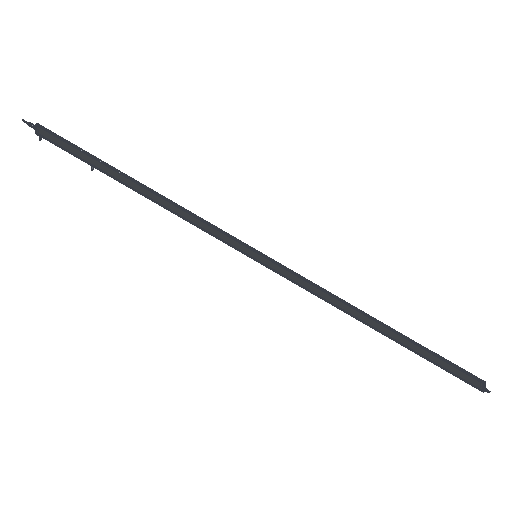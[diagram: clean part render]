
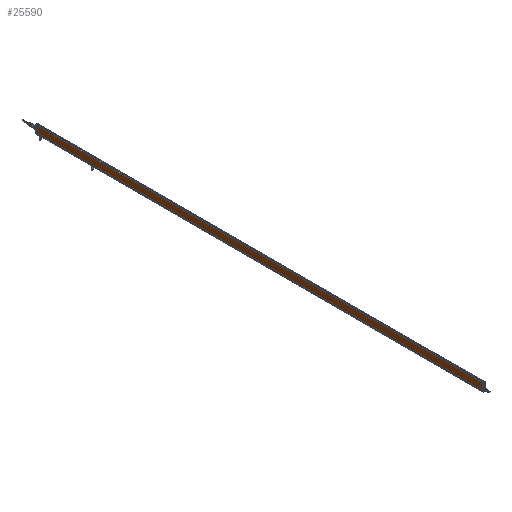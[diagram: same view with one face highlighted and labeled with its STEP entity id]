
A CAD part, isometric view. The second image highlights one B-rep face of the part: STEP entity #25590.
In plain terms, the highlighted planar face has unit normal (-1, 0, 0).
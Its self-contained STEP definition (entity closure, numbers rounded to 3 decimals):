
#731 = ORIENTED_EDGE ( 'NONE', *, *, #32818, .T. ) ;
#2195 = VECTOR ( 'NONE', #31723, 1000. ) ;
#4940 = ORIENTED_EDGE ( 'NONE', *, *, #24769, .F. ) ;
#5681 = EDGE_CURVE ( 'NONE', #8750, #23191, #10844, .T. ) ;
#5737 = EDGE_LOOP ( 'NONE', ( #4940, #19010, #26243, #731 ) ) ;
#7210 = DIRECTION ( 'NONE',  ( 0., 0., -1. ) ) ;
#8002 = CARTESIAN_POINT ( 'NONE',  ( -9., 1715., 28.5 ) ) ;
#8505 = FACE_OUTER_BOUND ( 'NONE', #5737, .T. ) ;
#8750 = VERTEX_POINT ( 'NONE', #26779 ) ;
#8782 = CARTESIAN_POINT ( 'NONE',  ( -9., 0., 28.5 ) ) ;
#9482 = PLANE ( 'NONE',  #10352 ) ;
#10061 = VECTOR ( 'NONE', #13857, 1000. ) ;
#10071 = VERTEX_POINT ( 'NONE', #16916 ) ;
#10352 = AXIS2_PLACEMENT_3D ( 'NONE', #11989, #17275, #29155 ) ;
#10463 = CARTESIAN_POINT ( 'NONE',  ( -9., 0., 28.5 ) ) ;
#10538 = LINE ( 'NONE', #12171, #26269 ) ;
#10735 = VECTOR ( 'NONE', #13340, 1000. ) ;
#10844 = LINE ( 'NONE', #8002, #10061 ) ;
#11989 = CARTESIAN_POINT ( 'NONE',  ( -9., 1715., 28.5 ) ) ;
#12171 = CARTESIAN_POINT ( 'NONE',  ( -9., 1715., 28.5 ) ) ;
#13340 = DIRECTION ( 'NONE',  ( 0., -1., 0. ) ) ;
#13857 = DIRECTION ( 'NONE',  ( 0., -1., 0. ) ) ;
#16916 = CARTESIAN_POINT ( 'NONE',  ( -9., 1715., 0.5 ) ) ;
#17275 = DIRECTION ( 'NONE',  ( -1., 0., 0. ) ) ;
#18070 = EDGE_CURVE ( 'NONE', #8750, #10071, #10538, .T. ) ;
#19010 = ORIENTED_EDGE ( 'NONE', *, *, #5681, .F. ) ;
#19919 = LINE ( 'NONE', #10463, #2195 ) ;
#21335 = CARTESIAN_POINT ( 'NONE',  ( -9., 1715., 0.5 ) ) ;
#21347 = CARTESIAN_POINT ( 'NONE',  ( -9., 0., 0.5 ) ) ;
#23191 = VERTEX_POINT ( 'NONE', #8782 ) ;
#23948 = LINE ( 'NONE', #21335, #10735 ) ;
#24769 = EDGE_CURVE ( 'NONE', #23191, #31866, #19919, .T. ) ;
#25590 = ADVANCED_FACE ( 'NONE', ( #8505 ), #9482, .T. ) ;
#26243 = ORIENTED_EDGE ( 'NONE', *, *, #18070, .T. ) ;
#26269 = VECTOR ( 'NONE', #7210, 1000. ) ;
#26779 = CARTESIAN_POINT ( 'NONE',  ( -9., 1715., 28.5 ) ) ;
#29155 = DIRECTION ( 'NONE',  ( 0., -1., 0. ) ) ;
#31723 = DIRECTION ( 'NONE',  ( 0., 0., -1. ) ) ;
#31866 = VERTEX_POINT ( 'NONE', #21347 ) ;
#32818 = EDGE_CURVE ( 'NONE', #10071, #31866, #23948, .T. ) ;
